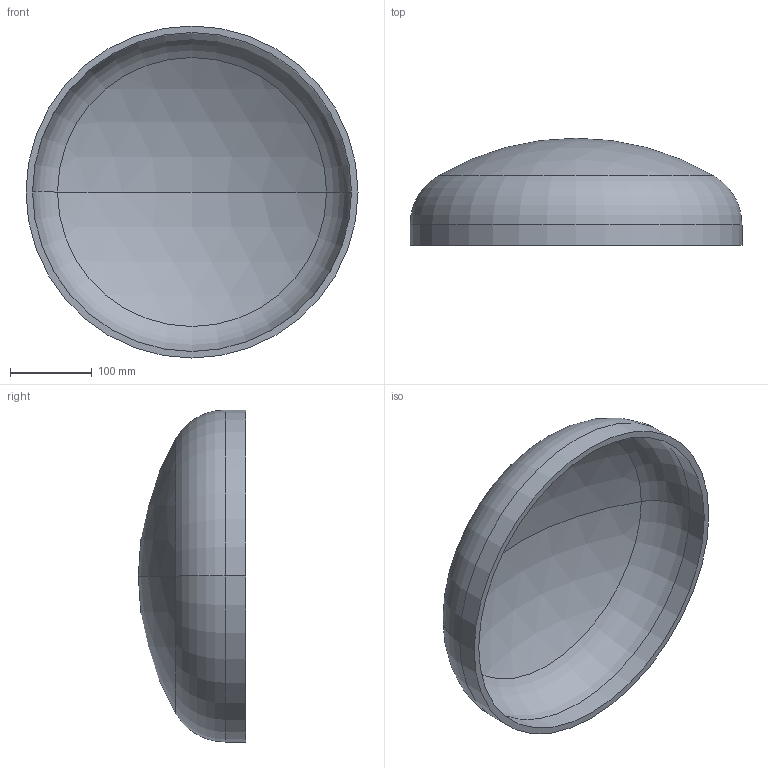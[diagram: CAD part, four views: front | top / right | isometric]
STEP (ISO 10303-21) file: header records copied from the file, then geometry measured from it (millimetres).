
FILE_DESCRIPTION (( 'STEP AP203' ), '1' );
FILE_NAME ('DIN 28013 Korbbogenform_-_Boden DIN 28013 - 406,4 x 25 - I - s=8.step', '2016-07-01T07:48:48', ( '' ), ( '' ), 'SwSTEP 2.0', 'SolidWorks 2013', '' );
FILE_SCHEMA (( 'CONFIG_CONTROL_DESIGN' ));
Length unit declared in the file: millimetre
Products named in the file (1): DIN 28013 Korbbogenform_-_Boden DIN 28013 - 406,4 x 25 - I - s=8
Bounding box: 406.4 x 131.23 x 406.4 mm (x, y, z)
Volume: 1648239.4 mm3; surface area: 422206.6 mm2
Topology: 1 solids, 1 shells, 13 faces, 24 edges, 14 vertices
Faces by surface type: torus 4, cylinder 4, sphere 4, plane 1
Entity records: 407 total; most frequent: DIRECTION 72, CARTESIAN_POINT 52, ORIENTED_EDGE 48, AXIS2_PLACEMENT_3D 34, EDGE_CURVE 24, CIRCLE 20, EDGE_LOOP 14, VERTEX_POINT 14
